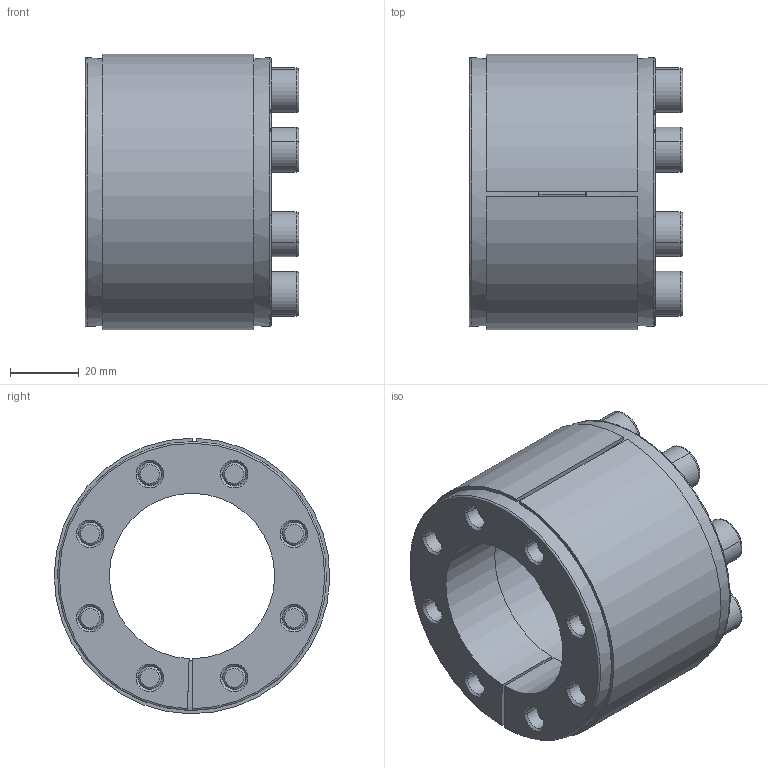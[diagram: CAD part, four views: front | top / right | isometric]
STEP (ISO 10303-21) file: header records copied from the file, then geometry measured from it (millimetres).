
FILE_DESCRIPTION((''),'2;1');
FILE_NAME('398-016-0048','2024-02-19T',('Brieden'),('Brieden'),'PRO/ENGINEER BY PARAMETRIC TECHNOLOGY CORPORATION, 2010160','PRO/ENGINEER BY PARAMETRIC TECHNOLOGY CORPORATION, 2010160','');
FILE_SCHEMA(('AUTOMOTIVE_DESIGN { 1 0 10303 214 1 1 1 1 }'));
Length unit declared in the file: millimetre
Products named in the file (1): 398-016-0048
Bounding box: 62 x 79.98 x 79.99 mm (x, y, z)
Volume: 166423.3 mm3; surface area: 76798.9 mm2
Topology: 2 solids, 10 shells, 272 faces, 654 edges, 420 vertices
Faces by surface type: cylinder 108, plane 94, cone 52, torus 18
Entity records: 10236 total; most frequent: DIRECTION 1530, CARTESIAN_POINT 1349, ORIENTED_EDGE 1276, PRESENTATION_STYLE_ASSIGNMENT 672, STYLED_ITEM 664, CURVE_STYLE 654, EDGE_CURVE 654, AXIS2_PLACEMENT_3D 601
